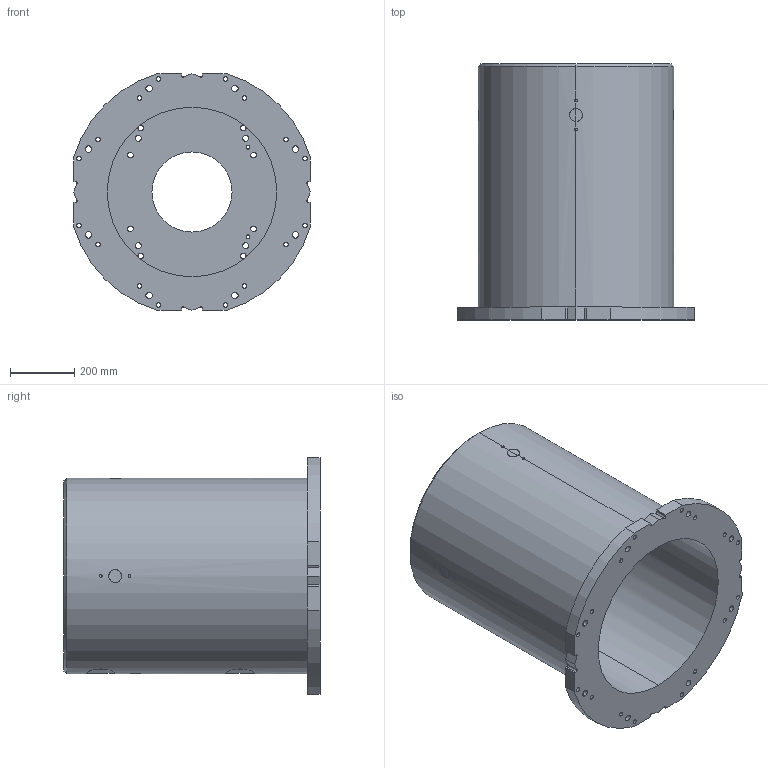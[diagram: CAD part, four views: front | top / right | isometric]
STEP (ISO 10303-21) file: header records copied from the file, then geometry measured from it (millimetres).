
FILE_DESCRIPTION (( 'STEP AP214' ), '1' );
FILE_NAME ('M-800.STEP', '2025-12-09T14:28:12', ( '' ), ( '' ), 'SwSTEP 2.0', 'SolidWorks 2022', '' );
FILE_SCHEMA (( 'AUTOMOTIVE_DESIGN' ));
Length unit declared in the file: millimetre
Products named in the file (1): M-800
Bounding box: 740 x 800 x 740 mm (x, y, z)
Volume: 69758605.7 mm3; surface area: 3723420.5 mm2
Topology: 1 solids, 1 shells, 215 faces, 597 edges, 394 vertices
Faces by surface type: cylinder 157, plane 28, bspline 24, cone 6
Entity records: 12806 total; most frequent: CARTESIAN_POINT 6333, ORIENTED_EDGE 1186, DIRECTION 1037, EDGE_CURVE 593, AXIS2_PLACEMENT_3D 406, VERTEX_POINT 394, EDGE_LOOP 307, VECTOR 225
